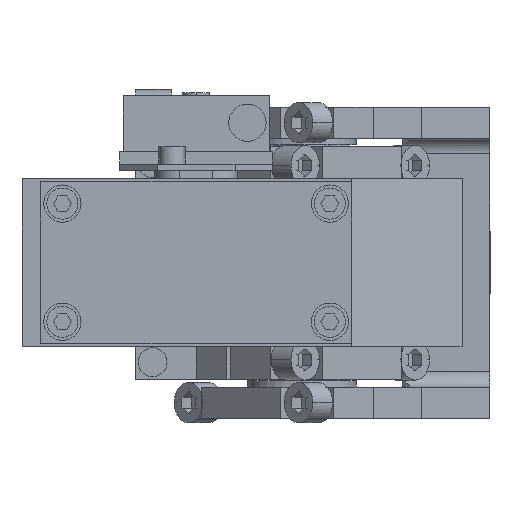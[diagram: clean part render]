
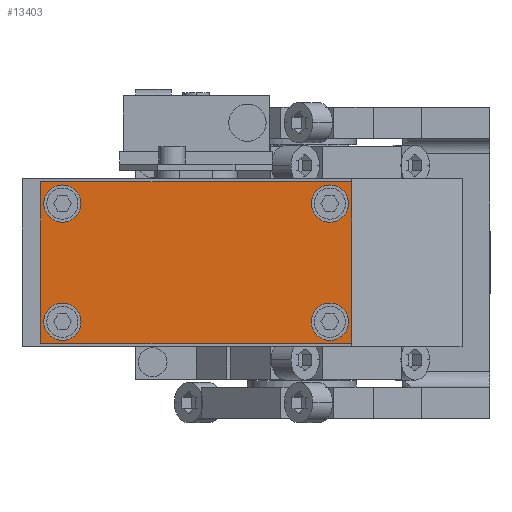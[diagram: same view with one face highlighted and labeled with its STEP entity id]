
A CAD part, front view. The second image highlights one B-rep face of the part: STEP entity #13403.
In plain terms, the highlighted planar face has unit normal (0, -1, 0).
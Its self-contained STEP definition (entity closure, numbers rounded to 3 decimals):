
#740 = CARTESIAN_POINT ( 'NONE',  ( -84., -294.5, 1. ) ) ;
#857 = EDGE_LOOP ( 'NONE', ( #25398, #21128 ) ) ;
#973 = CARTESIAN_POINT ( 'NONE',  ( -84., -294.5, 53. ) ) ;
#1179 = EDGE_LOOP ( 'NONE', ( #10753, #5443 ) ) ;
#1185 = CARTESIAN_POINT ( 'NONE',  ( 16., -294.5, 53. ) ) ;
#1459 = CARTESIAN_POINT ( 'NONE',  ( 9., -294.5, 14. ) ) ;
#1538 = EDGE_LOOP ( 'NONE', ( #16447, #20180 ) ) ;
#1677 = EDGE_LOOP ( 'NONE', ( #14376, #17952 ) ) ;
#1830 = DIRECTION ( 'NONE',  ( 0., 0., -1. ) ) ;
#1938 = EDGE_CURVE ( 'NONE', #6429, #6406, #3656, .T. ) ;
#1982 = EDGE_LOOP ( 'NONE', ( #21507, #8198, #17618, #20122 ) ) ;
#2212 = VECTOR ( 'NONE', #23896, 1000. ) ;
#2678 = CARTESIAN_POINT ( 'NONE',  ( 9., -294.5, 2. ) ) ;
#2716 = DIRECTION ( 'NONE',  ( 0., 0., -1. ) ) ;
#3056 = CIRCLE ( 'NONE', #9248, 6. ) ;
#3631 = EDGE_CURVE ( 'NONE', #6406, #7048, #15217, .T. ) ;
#3656 = LINE ( 'NONE', #973, #2212 ) ;
#3862 = LINE ( 'NONE', #1185, #21069 ) ;
#4176 = CARTESIAN_POINT ( 'NONE',  ( -77., -294.5, 52. ) ) ;
#4340 = CARTESIAN_POINT ( 'NONE',  ( 16., -294.5, 1. ) ) ;
#4481 = DIRECTION ( 'NONE',  ( 0., -1., 0. ) ) ;
#4683 = DIRECTION ( 'NONE',  ( 0., 0., -1. ) ) ;
#4967 = DIRECTION ( 'NONE',  ( 0., 0., -1. ) ) ;
#5128 = CARTESIAN_POINT ( 'NONE',  ( -77., -294.5, 14. ) ) ;
#5140 = CARTESIAN_POINT ( 'NONE',  ( 9., -294.5, 40. ) ) ;
#5423 = DIRECTION ( 'NONE',  ( 0., -1., 0. ) ) ;
#5443 = ORIENTED_EDGE ( 'NONE', *, *, #10849, .F. ) ;
#5599 = CARTESIAN_POINT ( 'NONE',  ( -77., -294.5, 2. ) ) ;
#6406 = VERTEX_POINT ( 'NONE', #740 ) ;
#6429 = VERTEX_POINT ( 'NONE', #10937 ) ;
#7048 = VERTEX_POINT ( 'NONE', #4340 ) ;
#7192 = CARTESIAN_POINT ( 'NONE',  ( 9., -294.5, 8. ) ) ;
#7218 = VERTEX_POINT ( 'NONE', #16000 ) ;
#7411 = DIRECTION ( 'NONE',  ( 0., -1., 0. ) ) ;
#7668 = VERTEX_POINT ( 'NONE', #5128 ) ;
#7672 = DIRECTION ( 'NONE',  ( 1., 0., 0. ) ) ;
#7711 = DIRECTION ( 'NONE',  ( 0., -1., 0. ) ) ;
#7870 = VERTEX_POINT ( 'NONE', #5599 ) ;
#7880 = CIRCLE ( 'NONE', #11353, 6. ) ;
#8138 = DIRECTION ( 'NONE',  ( 0., 0., -1. ) ) ;
#8184 = CARTESIAN_POINT ( 'NONE',  ( 0., -294.5, 0. ) ) ;
#8198 = ORIENTED_EDGE ( 'NONE', *, *, #3631, .T. ) ;
#8695 = VERTEX_POINT ( 'NONE', #1459 ) ;
#8814 = AXIS2_PLACEMENT_3D ( 'NONE', #17116, #14550, #11966 ) ;
#8980 = EDGE_CURVE ( 'NONE', #8990, #8695, #3056, .T. ) ;
#8990 = VERTEX_POINT ( 'NONE', #2678 ) ;
#9248 = AXIS2_PLACEMENT_3D ( 'NONE', #16084, #10828, #8138 ) ;
#9673 = VERTEX_POINT ( 'NONE', #12826 ) ;
#9704 = CIRCLE ( 'NONE', #19229, 6. ) ;
#9967 = VERTEX_POINT ( 'NONE', #5140 ) ;
#9975 = DIRECTION ( 'NONE',  ( 1., 0., 0. ) ) ;
#10171 = CARTESIAN_POINT ( 'NONE',  ( 9., -294.5, 46. ) ) ;
#10199 = CARTESIAN_POINT ( 'NONE',  ( -77., -294.5, 8. ) ) ;
#10405 = CARTESIAN_POINT ( 'NONE',  ( -77., -294.5, 40. ) ) ;
#10408 = CARTESIAN_POINT ( 'NONE',  ( -84., -294.5, 53. ) ) ;
#10447 = CARTESIAN_POINT ( 'NONE',  ( -77., -294.5, 46. ) ) ;
#10753 = ORIENTED_EDGE ( 'NONE', *, *, #8980, .F. ) ;
#10760 = VERTEX_POINT ( 'NONE', #4176 ) ;
#10828 = DIRECTION ( 'NONE',  ( 0., -1., 0. ) ) ;
#10849 = EDGE_CURVE ( 'NONE', #8695, #8990, #17385, .T. ) ;
#10885 = EDGE_CURVE ( 'NONE', #7218, #7048, #3862, .T. ) ;
#10937 = CARTESIAN_POINT ( 'NONE',  ( -84., -294.5, 53. ) ) ;
#11078 = VERTEX_POINT ( 'NONE', #10405 ) ;
#11353 = AXIS2_PLACEMENT_3D ( 'NONE', #10199, #22445, #19995 ) ;
#11389 = AXIS2_PLACEMENT_3D ( 'NONE', #17642, #15059, #12500 ) ;
#11551 = AXIS2_PLACEMENT_3D ( 'NONE', #10171, #7411, #4683 ) ;
#11685 = AXIS2_PLACEMENT_3D ( 'NONE', #19673, #17074, #14515 ) ;
#11966 = DIRECTION ( 'NONE',  ( 0., 0., -1. ) ) ;
#12392 = VECTOR ( 'NONE', #9975, 1000. ) ;
#12500 = DIRECTION ( 'NONE',  ( 0., 0., -1. ) ) ;
#12646 = CARTESIAN_POINT ( 'NONE',  ( -84., -294.5, 1. ) ) ;
#12826 = CARTESIAN_POINT ( 'NONE',  ( 9., -294.5, 52. ) ) ;
#12977 = EDGE_CURVE ( 'NONE', #11078, #10760, #19604, .T. ) ;
#13064 = LINE ( 'NONE', #10408, #16321 ) ;
#13403 = ADVANCED_FACE ( 'NONE', ( #17325, #14093, #21198, #22396, #23619 ), #16127, .T. ) ;
#14093 = FACE_BOUND ( 'NONE', #1179, .T. ) ;
#14376 = ORIENTED_EDGE ( 'NONE', *, *, #12977, .F. ) ;
#14515 = DIRECTION ( 'NONE',  ( 0., 0., -1. ) ) ;
#14550 = DIRECTION ( 'NONE',  ( 0., -1., 0. ) ) ;
#14567 = CIRCLE ( 'NONE', #11685, 6. ) ;
#15059 = DIRECTION ( 'NONE',  ( 0., -1., 0. ) ) ;
#15217 = LINE ( 'NONE', #12646, #12392 ) ;
#15241 = AXIS2_PLACEMENT_3D ( 'NONE', #7192, #4481, #1830 ) ;
#15538 = CIRCLE ( 'NONE', #11551, 6. ) ;
#16000 = CARTESIAN_POINT ( 'NONE',  ( 16., -294.5, 53. ) ) ;
#16084 = CARTESIAN_POINT ( 'NONE',  ( 9., -294.5, 8. ) ) ;
#16127 = PLANE ( 'NONE',  #17970 ) ;
#16321 = VECTOR ( 'NONE', #7672, 1000. ) ;
#16447 = ORIENTED_EDGE ( 'NONE', *, *, #23586, .F. ) ;
#17074 = DIRECTION ( 'NONE',  ( 0., -1., 0. ) ) ;
#17116 = CARTESIAN_POINT ( 'NONE',  ( -77., -294.5, 46. ) ) ;
#17325 = FACE_BOUND ( 'NONE', #857, .T. ) ;
#17385 = CIRCLE ( 'NONE', #15241, 6. ) ;
#17618 = ORIENTED_EDGE ( 'NONE', *, *, #10885, .F. ) ;
#17642 = CARTESIAN_POINT ( 'NONE',  ( -77., -294.5, 8. ) ) ;
#17952 = ORIENTED_EDGE ( 'NONE', *, *, #24180, .F. ) ;
#17970 = AXIS2_PLACEMENT_3D ( 'NONE', #8184, #5423, #2716 ) ;
#18200 = EDGE_CURVE ( 'NONE', #9673, #9967, #14567, .T. ) ;
#18953 = EDGE_CURVE ( 'NONE', #7870, #7668, #24413, .T. ) ;
#19229 = AXIS2_PLACEMENT_3D ( 'NONE', #10447, #7711, #4967 ) ;
#19275 = EDGE_CURVE ( 'NONE', #6429, #7218, #13064, .T. ) ;
#19604 = CIRCLE ( 'NONE', #8814, 6. ) ;
#19673 = CARTESIAN_POINT ( 'NONE',  ( 9., -294.5, 46. ) ) ;
#19995 = DIRECTION ( 'NONE',  ( 0., 0., -1. ) ) ;
#20122 = ORIENTED_EDGE ( 'NONE', *, *, #19275, .F. ) ;
#20180 = ORIENTED_EDGE ( 'NONE', *, *, #18200, .F. ) ;
#21069 = VECTOR ( 'NONE', #24068, 1000. ) ;
#21128 = ORIENTED_EDGE ( 'NONE', *, *, #25405, .F. ) ;
#21198 = FACE_BOUND ( 'NONE', #1538, .T. ) ;
#21507 = ORIENTED_EDGE ( 'NONE', *, *, #1938, .T. ) ;
#22396 = FACE_BOUND ( 'NONE', #1677, .T. ) ;
#22445 = DIRECTION ( 'NONE',  ( 0., -1., 0. ) ) ;
#23586 = EDGE_CURVE ( 'NONE', #9967, #9673, #15538, .T. ) ;
#23619 = FACE_OUTER_BOUND ( 'NONE', #1982, .T. ) ;
#23896 = DIRECTION ( 'NONE',  ( 0., 0., -1. ) ) ;
#24068 = DIRECTION ( 'NONE',  ( 0., 0., -1. ) ) ;
#24180 = EDGE_CURVE ( 'NONE', #10760, #11078, #9704, .T. ) ;
#24413 = CIRCLE ( 'NONE', #11389, 6. ) ;
#25398 = ORIENTED_EDGE ( 'NONE', *, *, #18953, .F. ) ;
#25405 = EDGE_CURVE ( 'NONE', #7668, #7870, #7880, .T. ) ;
